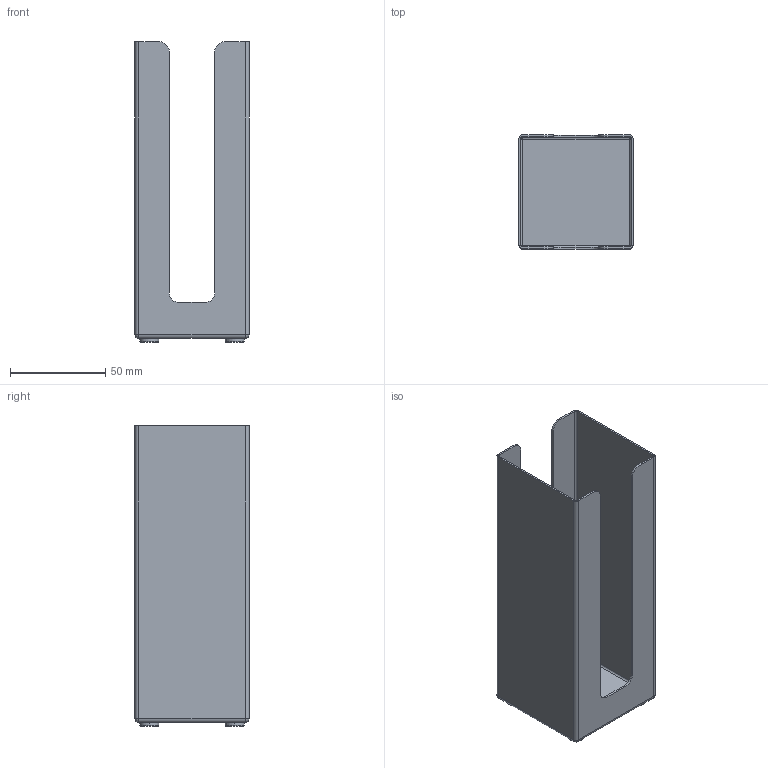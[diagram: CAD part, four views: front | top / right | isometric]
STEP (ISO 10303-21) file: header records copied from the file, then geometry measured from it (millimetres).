
FILE_DESCRIPTION (( 'STEP AP203' ), '1' );
FILE_NAME ('Pojemnik na waciki kosmetyczne TUBI.STEP', '2021-11-03T20:16:09', ( '' ), ( '' ), 'SwSTEP 2.0', 'SolidWorks 2021', '' );
FILE_SCHEMA (( 'CONFIG_CONTROL_DESIGN' ));
Length unit declared in the file: millimetre
Products named in the file (1): Pojemnik na waciki kosmetyczne TUBI
Bounding box: 60 x 60 x 158 mm (x, y, z)
Volume: 33671.6 mm3; surface area: 67090 mm2
Topology: 1 solids, 1 shells, 70 faces, 168 edges, 96 vertices
Faces by surface type: cylinder 32, plane 22, torus 8, sphere 8
Entity records: 2045 total; most frequent: DIRECTION 382, CARTESIAN_POINT 327, ORIENTED_EDGE 320, EDGE_CURVE 160, AXIS2_PLACEMENT_3D 151, VERTEX_POINT 96, CIRCLE 80, LINE 80
